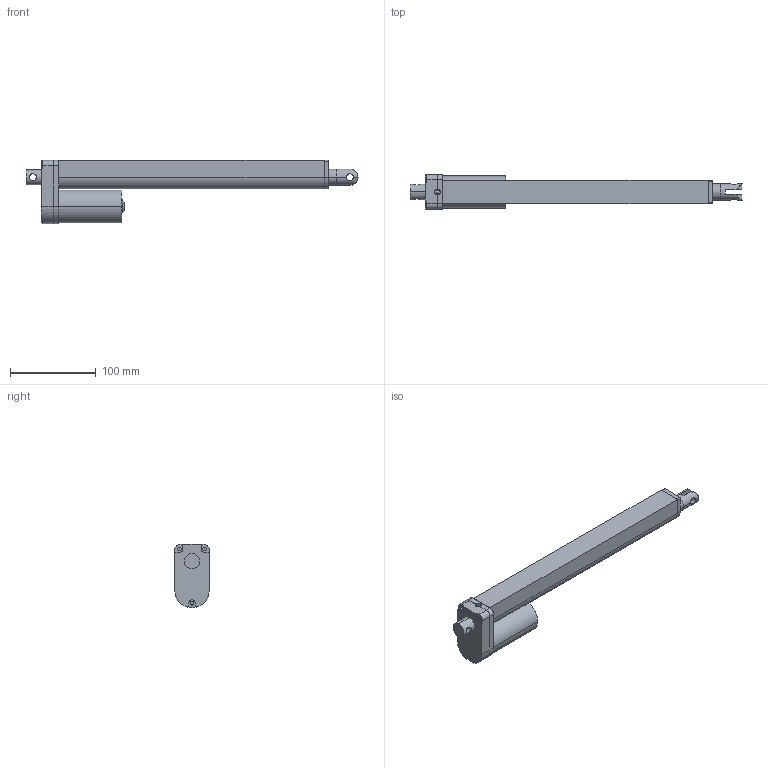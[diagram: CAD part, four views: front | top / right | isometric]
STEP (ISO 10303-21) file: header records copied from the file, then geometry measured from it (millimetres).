
FILE_DESCRIPTION((''),'2;1');
FILE_NAME('LAS-S100_ASM','2007-07-11T',('amyliao'),(''),'PRO/ENGINEER BY PARAMETRIC TECHNOLOGY CORPORATION, 2003210','PRO/ENGINEER BY PARAMETRIC TECHNOLOGY CORPORATION, 2003210','');
FILE_SCHEMA(('CONFIG_CONTROL_DESIGN'));
Length unit declared in the file: millimetre
Products named in the file (8): GEAR02; GEAR01; OUT-TUB; 1; LAS-IN-TUB_100; LAS-IN-PLUG; LAS-MOTOR; LAS-S100_ASM
Assembly tree (7 placements, depth 2):
  LAS-S100_ASM
    GEAR02
    GEAR01
    OUT-TUB
    1
    LAS-IN-TUB_100
    LAS-IN-PLUG
    LAS-MOTOR
Bounding box: 386.4 x 40 x 73.6 mm (x, y, z)
Volume: 197007.2 mm3; surface area: 115542.3 mm2
Topology: 7 solids, 7 shells, 150 faces, 393 edges, 260 vertices
Faces by surface type: cylinder 77, plane 71, cone 2
Entity records: 5111 total; most frequent: CARTESIAN_POINT 1030, DIRECTION 861, ORIENTED_EDGE 786, EDGE_CURVE 393, AXIS2_PLACEMENT_3D 315, VERTEX_POINT 260, VECTOR 231, LINE 231
